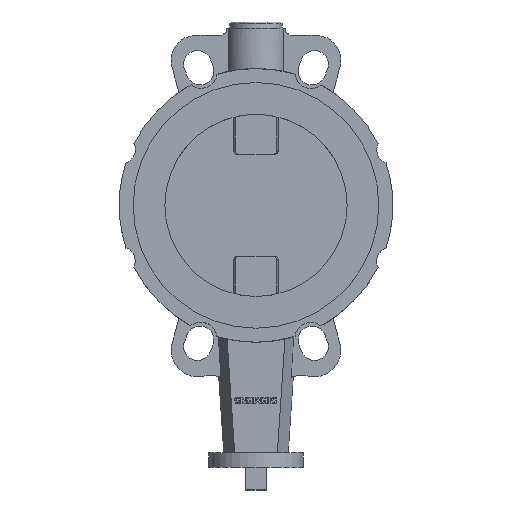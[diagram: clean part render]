
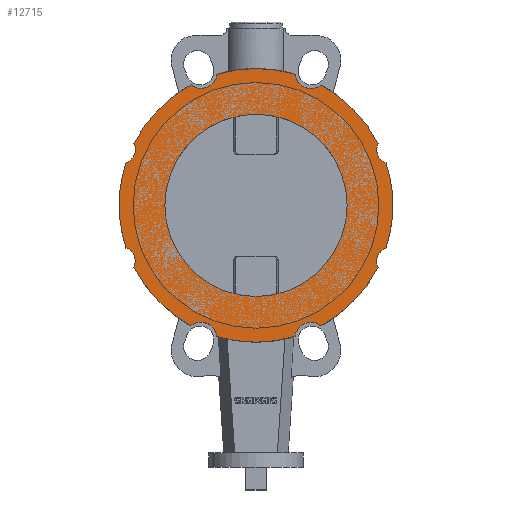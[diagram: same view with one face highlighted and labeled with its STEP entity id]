
A CAD part, top view. The second image highlights one B-rep face of the part: STEP entity #12715.
In plain terms, the highlighted planar face has unit normal (0, 0, 1).
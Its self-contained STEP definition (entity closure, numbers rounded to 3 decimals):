
#10685=CARTESIAN_POINT('',(94.,0.,56.0));
#10686=VERTEX_POINT('',#10685);
#10702=CARTESIAN_POINT('',(89.35,29.2,56.0));
#10703=VERTEX_POINT('',#10702);
#10710=CARTESIAN_POINT('',(0.,0.0,56.0));
#10711=DIRECTION('',(0.0,0.0,1.0));
#10712=DIRECTION('',(1.0,0.0,0.0));
#10713=AXIS2_PLACEMENT_3D('',#10710,#10711,#10712);
#10714=CIRCLE('',#10713,94.0);
#10715=EDGE_CURVE('',#10686,#10703,#10714,.T.);
#10725=CARTESIAN_POINT('',(-94.,0.,56.0));
#10726=VERTEX_POINT('',#10725);
#10735=CARTESIAN_POINT('',(-89.3,29.352,56.0));
#10736=VERTEX_POINT('',#10735);
#10737=CARTESIAN_POINT('',(0.,0.0,56.0));
#10738=DIRECTION('',(0.0,0.0,1.0));
#10739=DIRECTION('',(1.0,0.0,0.0));
#10740=AXIS2_PLACEMENT_3D('',#10737,#10738,#10739);
#10741=CIRCLE('',#10740,94.0);
#10742=EDGE_CURVE('',#10736,#10726,#10741,.T.);
#10767=CARTESIAN_POINT('',(-83.582,34.704,56.0));
#10768=VERTEX_POINT('',#10767);
#10777=CARTESIAN_POINT('',(-83.827,42.533,56.0));
#10778=VERTEX_POINT('',#10777);
#10779=CARTESIAN_POINT('',(-92.355,38.347,56.0));
#10780=DIRECTION('',(0.0,0.0,-1.));
#10781=DIRECTION('',(0.924,-0.383,0.0));
#10782=AXIS2_PLACEMENT_3D('',#10779,#10780,#10781);
#10783=CIRCLE('',#10782,9.5);
#10784=EDGE_CURVE('',#10778,#10768,#10783,.T.);
#10809=CARTESIAN_POINT('',(-83.641,-34.562,56.0));
#10810=VERTEX_POINT('',#10809);
#10819=CARTESIAN_POINT('',(-89.35,-29.2,56.0));
#10820=VERTEX_POINT('',#10819);
#10821=CARTESIAN_POINT('',(-92.42,-38.19,56.0));
#10822=DIRECTION('',(0.0,0.0,-1.0));
#10823=DIRECTION('',(0.924,0.382,0.0));
#10824=AXIS2_PLACEMENT_3D('',#10821,#10822,#10823);
#10825=CIRCLE('',#10824,9.5);
#10826=EDGE_CURVE('',#10820,#10810,#10825,.T.);
#10977=CARTESIAN_POINT('',(83.582,-34.704,56.0));
#10978=VERTEX_POINT('',#10977);
#10987=CARTESIAN_POINT('',(83.827,-42.533,56.0));
#10988=VERTEX_POINT('',#10987);
#10989=CARTESIAN_POINT('',(92.355,-38.347,56.0));
#10990=DIRECTION('',(0.0,0.0,-1.));
#10991=DIRECTION('',(-0.924,0.383,0.0));
#10992=AXIS2_PLACEMENT_3D('',#10989,#10990,#10991);
#10993=CIRCLE('',#10992,9.5);
#10994=EDGE_CURVE('',#10988,#10978,#10993,.T.);
#11019=CARTESIAN_POINT('',(83.641,34.562,56.0));
#11020=VERTEX_POINT('',#11019);
#11029=CARTESIAN_POINT('',(92.42,38.19,56.0));
#11030=DIRECTION('',(0.0,0.0,-1.));
#11031=DIRECTION('',(-0.924,-0.382,0.0));
#11032=AXIS2_PLACEMENT_3D('',#11029,#11030,#11031);
#11033=CIRCLE('',#11032,9.5);
#11034=EDGE_CURVE('',#10703,#11020,#11033,.T.);
#11220=CARTESIAN_POINT('',(62.6,0.,56.0));
#11221=VERTEX_POINT('',#11220);
#11230=CARTESIAN_POINT('',(-62.6,0.0,56.0));
#11231=VERTEX_POINT('',#11230);
#11232=CARTESIAN_POINT('',(0.0,0.0,56.0));
#11233=DIRECTION('',(0.0,0.0,-1.0));
#11234=DIRECTION('',(1.0,0.0,0.0));
#11235=AXIS2_PLACEMENT_3D('',#11232,#11233,#11234);
#11236=CIRCLE('',#11235,62.6);
#11237=EDGE_CURVE('',#11231,#11221,#11236,.T.);
#11558=CARTESIAN_POINT('',(26.808,-90.096,56.0));
#11559=VERTEX_POINT('',#11558);
#11575=CARTESIAN_POINT('',(44.611,-82.74,56.0));
#11576=VERTEX_POINT('',#11575);
#11583=CARTESIAN_POINT('',(37.739,-91.329,56.0));
#11584=DIRECTION('',(0.0,0.0,-1.0));
#11585=DIRECTION('',(1.0,0.0,0.0));
#11586=AXIS2_PLACEMENT_3D('',#11583,#11584,#11585);
#11587=CIRCLE('',#11586,11.);
#11588=EDGE_CURVE('',#11559,#11576,#11587,.T.);
#11598=CARTESIAN_POINT('',(-26.962,-90.05,56.0));
#11599=VERTEX_POINT('',#11598);
#11608=CARTESIAN_POINT('',(-44.751,-82.664,56.0));
#11609=VERTEX_POINT('',#11608);
#11610=CARTESIAN_POINT('',(-37.894,-91.265,56.0));
#11611=DIRECTION('',(0.0,0.0,-1.0));
#11612=DIRECTION('',(1.0,0.0,0.0));
#11613=AXIS2_PLACEMENT_3D('',#11610,#11611,#11612);
#11614=CIRCLE('',#11613,11.);
#11615=EDGE_CURVE('',#11609,#11599,#11614,.T.);
#11642=CARTESIAN_POINT('',(44.751,82.664,56.0));
#11643=VERTEX_POINT('',#11642);
#11659=CARTESIAN_POINT('',(26.962,90.05,56.0));
#11660=VERTEX_POINT('',#11659);
#11667=CARTESIAN_POINT('',(37.894,91.265,56.0));
#11668=DIRECTION('',(0.0,0.0,-1.0));
#11669=DIRECTION('',(1.0,0.0,0.0));
#11670=AXIS2_PLACEMENT_3D('',#11667,#11668,#11669);
#11671=CIRCLE('',#11670,11.);
#11672=EDGE_CURVE('',#11643,#11660,#11671,.T.);
#11684=CARTESIAN_POINT('',(-26.808,90.096,56.0));
#11685=VERTEX_POINT('',#11684);
#11701=CARTESIAN_POINT('',(-44.611,82.74,56.0));
#11702=VERTEX_POINT('',#11701);
#11709=CARTESIAN_POINT('',(-37.739,91.329,56.0));
#11710=DIRECTION('',(0.0,0.0,-1.0));
#11711=DIRECTION('',(1.0,0.0,0.0));
#11712=AXIS2_PLACEMENT_3D('',#11709,#11710,#11711);
#11713=CIRCLE('',#11712,11.);
#11714=EDGE_CURVE('',#11685,#11702,#11713,.T.);
#12434=CARTESIAN_POINT('',(83.899,42.39,56.0));
#12435=VERTEX_POINT('',#12434);
#12436=CARTESIAN_POINT('',(0.,0.0,56.0));
#12437=DIRECTION('',(0.0,0.0,1.0));
#12438=DIRECTION('',(1.0,0.0,0.0));
#12439=AXIS2_PLACEMENT_3D('',#12436,#12437,#12438);
#12440=CIRCLE('',#12439,94.0);
#12441=EDGE_CURVE('',#12435,#11643,#12440,.T.);
#12602=CARTESIAN_POINT('',(0.,0.0,56.0));
#12603=DIRECTION('',(0.0,0.0,1.0));
#12604=DIRECTION('',(1.0,0.0,0.0));
#12605=AXIS2_PLACEMENT_3D('',#12602,#12603,#12604);
#12606=CIRCLE('',#12605,94.0);
#12607=EDGE_CURVE('',#11660,#11685,#12606,.T.);
#12612=CARTESIAN_POINT('',(0.,0.0,56.0));
#12613=DIRECTION('',(0.0,0.0,-1.0));
#12614=DIRECTION('',(1.0,0.0,0.0));
#12615=AXIS2_PLACEMENT_3D('',#12612,#12613,#12614);
#12616=PLANE('',#12615);
#12617=ORIENTED_EDGE('',*,*,#11588,.T.);
#12618=CARTESIAN_POINT('',(0.,0.0,56.0));
#12619=DIRECTION('',(0.0,0.0,1.0));
#12620=DIRECTION('',(1.0,0.0,0.0));
#12621=AXIS2_PLACEMENT_3D('',#12618,#12619,#12620);
#12622=CIRCLE('',#12621,94.0);
#12623=EDGE_CURVE('',#11576,#10988,#12622,.T.);
#12624=ORIENTED_EDGE('',*,*,#12623,.T.);
#12625=ORIENTED_EDGE('',*,*,#10994,.T.);
#12626=CARTESIAN_POINT('',(89.3,-29.352,56.0));
#12627=VERTEX_POINT('',#12626);
#12628=CARTESIAN_POINT('',(92.355,-38.347,56.0));
#12629=DIRECTION('',(0.0,0.0,-1.));
#12630=DIRECTION('',(-0.924,0.383,0.0));
#12631=AXIS2_PLACEMENT_3D('',#12628,#12629,#12630);
#12632=CIRCLE('',#12631,9.5);
#12633=EDGE_CURVE('',#10978,#12627,#12632,.T.);
#12634=ORIENTED_EDGE('',*,*,#12633,.T.);
#12635=CARTESIAN_POINT('',(0.,0.0,56.0));
#12636=DIRECTION('',(0.0,0.0,1.0));
#12637=DIRECTION('',(1.0,0.0,0.0));
#12638=AXIS2_PLACEMENT_3D('',#12635,#12636,#12637);
#12639=CIRCLE('',#12638,94.0);
#12640=EDGE_CURVE('',#12627,#10686,#12639,.T.);
#12641=ORIENTED_EDGE('',*,*,#12640,.T.);
#12642=ORIENTED_EDGE('',*,*,#10715,.T.);
#12643=ORIENTED_EDGE('',*,*,#11034,.T.);
#12644=CARTESIAN_POINT('',(92.42,38.19,56.0));
#12645=DIRECTION('',(0.0,0.0,-1.));
#12646=DIRECTION('',(-0.924,-0.382,0.0));
#12647=AXIS2_PLACEMENT_3D('',#12644,#12645,#12646);
#12648=CIRCLE('',#12647,9.5);
#12649=EDGE_CURVE('',#11020,#12435,#12648,.T.);
#12650=ORIENTED_EDGE('',*,*,#12649,.T.);
#12651=ORIENTED_EDGE('',*,*,#12441,.T.);
#12652=ORIENTED_EDGE('',*,*,#11672,.T.);
#12653=ORIENTED_EDGE('',*,*,#12607,.T.);
#12654=ORIENTED_EDGE('',*,*,#11714,.T.);
#12655=CARTESIAN_POINT('',(0.,0.0,56.0));
#12656=DIRECTION('',(0.0,0.0,1.0));
#12657=DIRECTION('',(1.0,0.0,0.0));
#12658=AXIS2_PLACEMENT_3D('',#12655,#12656,#12657);
#12659=CIRCLE('',#12658,94.0);
#12660=EDGE_CURVE('',#11702,#10778,#12659,.T.);
#12661=ORIENTED_EDGE('',*,*,#12660,.T.);
#12662=ORIENTED_EDGE('',*,*,#10784,.T.);
#12663=CARTESIAN_POINT('',(-92.355,38.347,56.0));
#12664=DIRECTION('',(0.0,0.0,-1.));
#12665=DIRECTION('',(0.924,-0.383,0.0));
#12666=AXIS2_PLACEMENT_3D('',#12663,#12664,#12665);
#12667=CIRCLE('',#12666,9.5);
#12668=EDGE_CURVE('',#10768,#10736,#12667,.T.);
#12669=ORIENTED_EDGE('',*,*,#12668,.T.);
#12670=ORIENTED_EDGE('',*,*,#10742,.T.);
#12671=CARTESIAN_POINT('',(0.,0.0,56.0));
#12672=DIRECTION('',(0.0,0.0,1.0));
#12673=DIRECTION('',(1.0,0.0,0.0));
#12674=AXIS2_PLACEMENT_3D('',#12671,#12672,#12673);
#12675=CIRCLE('',#12674,94.0);
#12676=EDGE_CURVE('',#10726,#10820,#12675,.T.);
#12677=ORIENTED_EDGE('',*,*,#12676,.T.);
#12678=ORIENTED_EDGE('',*,*,#10826,.T.);
#12679=CARTESIAN_POINT('',(-83.899,-42.39,56.0));
#12680=VERTEX_POINT('',#12679);
#12681=CARTESIAN_POINT('',(-92.42,-38.19,56.0));
#12682=DIRECTION('',(0.0,0.0,-1.0));
#12683=DIRECTION('',(0.924,0.382,0.0));
#12684=AXIS2_PLACEMENT_3D('',#12681,#12682,#12683);
#12685=CIRCLE('',#12684,9.5);
#12686=EDGE_CURVE('',#10810,#12680,#12685,.T.);
#12687=ORIENTED_EDGE('',*,*,#12686,.T.);
#12688=CARTESIAN_POINT('',(0.,0.0,56.0));
#12689=DIRECTION('',(0.0,0.0,1.0));
#12690=DIRECTION('',(1.0,0.0,0.0));
#12691=AXIS2_PLACEMENT_3D('',#12688,#12689,#12690);
#12692=CIRCLE('',#12691,94.0);
#12693=EDGE_CURVE('',#12680,#11609,#12692,.T.);
#12694=ORIENTED_EDGE('',*,*,#12693,.T.);
#12695=ORIENTED_EDGE('',*,*,#11615,.T.);
#12696=CARTESIAN_POINT('',(0.,0.0,56.0));
#12697=DIRECTION('',(0.0,0.0,1.0));
#12698=DIRECTION('',(1.0,0.0,0.0));
#12699=AXIS2_PLACEMENT_3D('',#12696,#12697,#12698);
#12700=CIRCLE('',#12699,94.0);
#12701=EDGE_CURVE('',#11599,#11559,#12700,.T.);
#12702=ORIENTED_EDGE('',*,*,#12701,.T.);
#12703=EDGE_LOOP('',(#12617,#12624,#12625,#12634,#12641,#12642,#12643,#12650,#12651,#12652,#12653,#12654,#12661,#12662,#12669,#12670,#12677,#12678,#12687,#12694,#12695,#12702));
#12704=FACE_OUTER_BOUND('',#12703,.T.);
#12705=ORIENTED_EDGE('',*,*,#11237,.T.);
#12706=CARTESIAN_POINT('',(0.0,0.0,56.0));
#12707=DIRECTION('',(0.0,0.0,-1.0));
#12708=DIRECTION('',(1.0,0.0,0.0));
#12709=AXIS2_PLACEMENT_3D('',#12706,#12707,#12708);
#12710=CIRCLE('',#12709,62.6);
#12711=EDGE_CURVE('',#11221,#11231,#12710,.T.);
#12712=ORIENTED_EDGE('',*,*,#12711,.T.);
#12713=EDGE_LOOP('',(#12705,#12712));
#12714=FACE_BOUND('',#12713,.T.);
#12715=ADVANCED_FACE('',(#12704,#12714),#12616,.F.);
